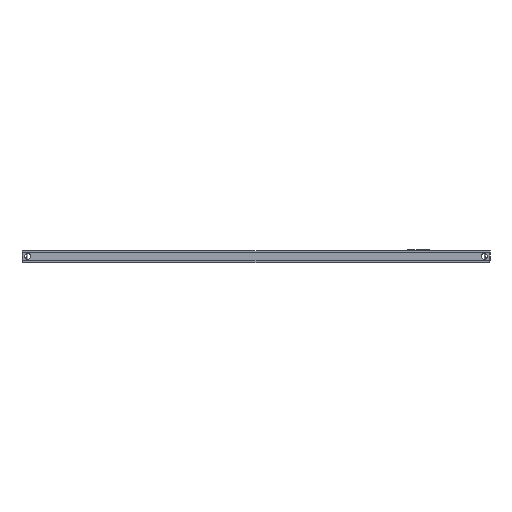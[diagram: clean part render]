
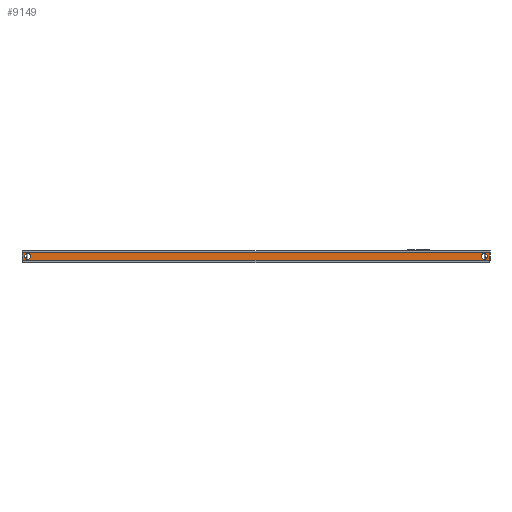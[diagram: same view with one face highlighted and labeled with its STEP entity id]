
A CAD part, left-side view. The second image highlights one B-rep face of the part: STEP entity #9149.
In plain terms, the highlighted planar face has unit normal (-1, 0, 0).
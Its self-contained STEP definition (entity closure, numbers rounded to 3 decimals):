
#58 = ORIENTED_EDGE ( 'NONE', *, *, #6149, .F. ) ;
#75 = CARTESIAN_POINT ( 'NONE',  ( -210., -244., -4. ) ) ;
#320 = CARTESIAN_POINT ( 'NONE',  ( -210., 244., -4. ) ) ;
#426 = CIRCLE ( 'NONE', #1417, 3. ) ;
#538 = CARTESIAN_POINT ( 'NONE',  ( -210., -247., -4. ) ) ;
#665 = CARTESIAN_POINT ( 'NONE',  ( -210., -249., 0. ) ) ;
#773 = PLANE ( 'NONE',  #9366 ) ;
#933 = DIRECTION ( 'NONE',  ( -1., 0., 0. ) ) ;
#984 = ORIENTED_EDGE ( 'NONE', *, *, #9846, .T. ) ;
#1003 = EDGE_LOOP ( 'NONE', ( #9527, #2236, #984, #5394 ) ) ;
#1111 = DIRECTION ( 'NONE',  ( -1., 0., 0. ) ) ;
#1158 = VERTEX_POINT ( 'NONE', #8239 ) ;
#1417 = AXIS2_PLACEMENT_3D ( 'NONE', #3220, #4893, #1705 ) ;
#1456 = CARTESIAN_POINT ( 'NONE',  ( -210., 250., -8.5 ) ) ;
#1524 = AXIS2_PLACEMENT_3D ( 'NONE', #75, #933, #5625 ) ;
#1705 = DIRECTION ( 'NONE',  ( 0., 1., 0. ) ) ;
#1728 = VERTEX_POINT ( 'NONE', #8133 ) ;
#1892 = DIRECTION ( 'NONE',  ( 0., 1., 0. ) ) ;
#1918 = AXIS2_PLACEMENT_3D ( 'NONE', #320, #1111, #1892 ) ;
#2236 = ORIENTED_EDGE ( 'NONE', *, *, #5467, .T. ) ;
#2334 = DIRECTION ( 'NONE',  ( 0., 1., 0. ) ) ;
#2407 = DIRECTION ( 'NONE',  ( 1., 0., 0. ) ) ;
#2434 = EDGE_LOOP ( 'NONE', ( #4927, #5163 ) ) ;
#2479 = DIRECTION ( 'NONE',  ( 0., -1., 0. ) ) ;
#3220 = CARTESIAN_POINT ( 'NONE',  ( -210., 244., -4. ) ) ;
#3321 = FACE_OUTER_BOUND ( 'NONE', #1003, .T. ) ;
#3381 = CIRCLE ( 'NONE', #1918, 3. ) ;
#3525 = VERTEX_POINT ( 'NONE', #7814 ) ;
#3541 = CARTESIAN_POINT ( 'NONE',  ( -210., -249., -8.5 ) ) ;
#3855 = VECTOR ( 'NONE', #5410, 1000. ) ;
#3896 = CARTESIAN_POINT ( 'NONE',  ( -210., -244., -4. ) ) ;
#3981 = EDGE_CURVE ( 'NONE', #1728, #6794, #8818, .T. ) ;
#4035 = EDGE_LOOP ( 'NONE', ( #7496, #58 ) ) ;
#4075 = EDGE_CURVE ( 'NONE', #7176, #9786, #5579, .T. ) ;
#4110 = LINE ( 'NONE', #7735, #3855 ) ;
#4545 = VECTOR ( 'NONE', #9353, 1000. ) ;
#4587 = FACE_BOUND ( 'NONE', #2434, .T. ) ;
#4893 = DIRECTION ( 'NONE',  ( -1., 0., 0. ) ) ;
#4927 = ORIENTED_EDGE ( 'NONE', *, *, #4075, .F. ) ;
#5163 = ORIENTED_EDGE ( 'NONE', *, *, #6910, .F. ) ;
#5321 = DIRECTION ( 'NONE',  ( 0., -1., 0. ) ) ;
#5394 = ORIENTED_EDGE ( 'NONE', *, *, #7390, .T. ) ;
#5401 = DIRECTION ( 'NONE',  ( 0., -1., 0. ) ) ;
#5410 = DIRECTION ( 'NONE',  ( 0., 0., 1. ) ) ;
#5467 = EDGE_CURVE ( 'NONE', #1728, #3525, #5772, .T. ) ;
#5579 = CIRCLE ( 'NONE', #1524, 3. ) ;
#5625 = DIRECTION ( 'NONE',  ( 0., 1., 0. ) ) ;
#5772 = LINE ( 'NONE', #8588, #4545 ) ;
#6149 = EDGE_CURVE ( 'NONE', #7352, #1158, #3381, .T. ) ;
#6211 = CARTESIAN_POINT ( 'NONE',  ( -210., 241., -4. ) ) ;
#6794 = VERTEX_POINT ( 'NONE', #665 ) ;
#6910 = EDGE_CURVE ( 'NONE', #9786, #7176, #9354, .T. ) ;
#7006 = CARTESIAN_POINT ( 'NONE',  ( -210., 250., -8.5 ) ) ;
#7072 = VECTOR ( 'NONE', #5321, 1000. ) ;
#7176 = VERTEX_POINT ( 'NONE', #7354 ) ;
#7352 = VERTEX_POINT ( 'NONE', #6211 ) ;
#7354 = CARTESIAN_POINT ( 'NONE',  ( -210., -241., -4. ) ) ;
#7390 = EDGE_CURVE ( 'NONE', #8083, #6794, #4110, .T. ) ;
#7496 = ORIENTED_EDGE ( 'NONE', *, *, #7803, .F. ) ;
#7735 = CARTESIAN_POINT ( 'NONE',  ( -210., -249., -8.5 ) ) ;
#7803 = EDGE_CURVE ( 'NONE', #1158, #7352, #426, .T. ) ;
#7814 = CARTESIAN_POINT ( 'NONE',  ( -210., 249., -8.5 ) ) ;
#8083 = VERTEX_POINT ( 'NONE', #3541 ) ;
#8133 = CARTESIAN_POINT ( 'NONE',  ( -210., 249., 0. ) ) ;
#8239 = CARTESIAN_POINT ( 'NONE',  ( -210., 247., -4. ) ) ;
#8528 = CARTESIAN_POINT ( 'NONE',  ( -210., 250., 0. ) ) ;
#8559 = AXIS2_PLACEMENT_3D ( 'NONE', #3896, #9543, #2334 ) ;
#8588 = CARTESIAN_POINT ( 'NONE',  ( -210., 249., -8.5 ) ) ;
#8818 = LINE ( 'NONE', #8528, #7072 ) ;
#9149 = ADVANCED_FACE ( 'NONE', ( #4587, #9807, #3321 ), #773, .F. ) ;
#9353 = DIRECTION ( 'NONE',  ( 0., 0., -1. ) ) ;
#9354 = CIRCLE ( 'NONE', #8559, 3. ) ;
#9366 = AXIS2_PLACEMENT_3D ( 'NONE', #1456, #2407, #2479 ) ;
#9437 = VECTOR ( 'NONE', #5401, 1000. ) ;
#9527 = ORIENTED_EDGE ( 'NONE', *, *, #3981, .F. ) ;
#9543 = DIRECTION ( 'NONE',  ( -1., 0., 0. ) ) ;
#9786 = VERTEX_POINT ( 'NONE', #538 ) ;
#9807 = FACE_BOUND ( 'NONE', #4035, .T. ) ;
#9808 = LINE ( 'NONE', #7006, #9437 ) ;
#9846 = EDGE_CURVE ( 'NONE', #3525, #8083, #9808, .T. ) ;
